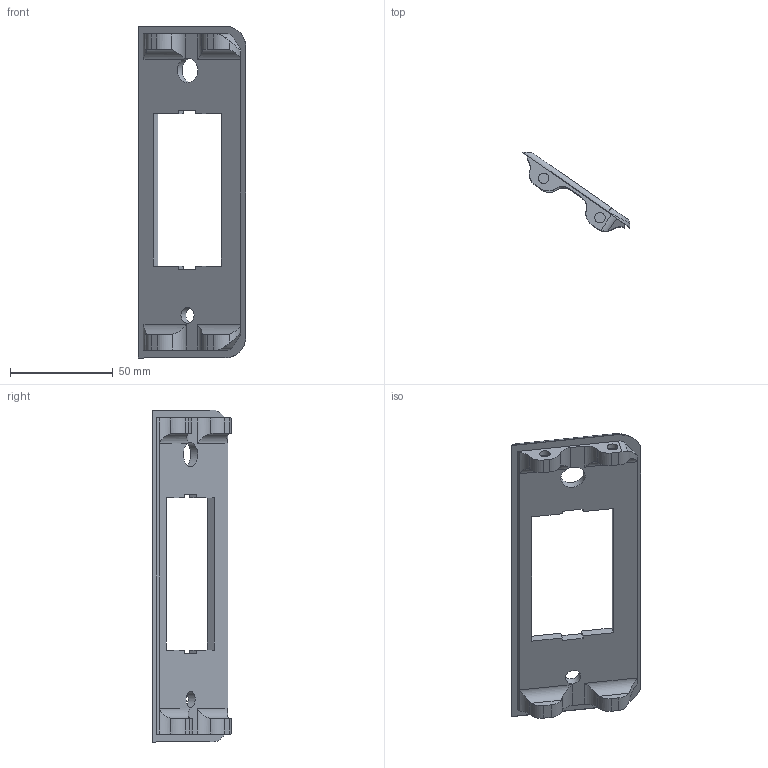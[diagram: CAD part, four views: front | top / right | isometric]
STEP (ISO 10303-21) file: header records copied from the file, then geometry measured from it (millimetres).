
FILE_DESCRIPTION(/* description */ (''),/* implementation_level */ '2;1');
FILE_NAME(/* name */ 'box_cap_JARVIS_airpath.step',/* time_stamp */ '2023-06-05T13:27:19+02:00',/* author */ (''),/* organization */ (''),/* preprocessor_version */ 'ST-DEVELOPER v19.2',/* originating_system */ 'Autodesk Translation Framework v12.6.0.85',/* authorisation */ '');
FILE_SCHEMA (('AUTOMOTIVE_DESIGN { 1 0 10303 214 3 1 1 }'));
Length unit declared in the file: millimetre
Products named in the file (2): Magnet Airpath; Beste Box v6
Assembly tree (1 placements, depth 2):
  Magnet Airpath
    Beste Box v6
Bounding box: 52.49 x 38.34 x 161.5 mm (x, y, z)
Volume: 29393.4 mm3; surface area: 17756.5 mm2
Topology: 1 solids, 1 shells, 72 faces, 190 edges, 124 vertices
Faces by surface type: plane 37, cylinder 33, bspline 2
Full cylindrical faces by diameter (mm): 5.05 x4, 7.774 x1, 12.042 x1
Entity records: 2481 total; most frequent: CARTESIAN_POINT 597, ORIENTED_EDGE 380, DIRECTION 369, EDGE_CURVE 190, AXIS2_PLACEMENT_3D 126, VERTEX_POINT 124, LINE 117, VECTOR 117
